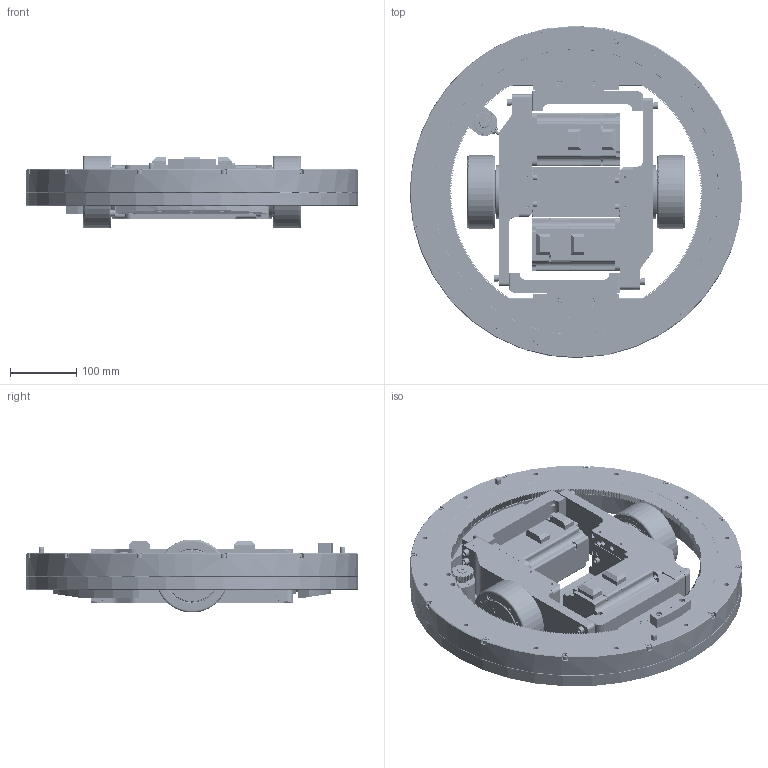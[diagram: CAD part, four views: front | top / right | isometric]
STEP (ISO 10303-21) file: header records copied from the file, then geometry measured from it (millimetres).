
FILE_DESCRIPTION (( 'STEP AP214' ), '1' );
FILE_NAME ('TEC110P751SP30-18-2DDB.STEP', '2025-07-17T00:54:12', ( '' ), ( '' ), 'SwSTEP 2.0', 'SolidWorks 2021', '' );
FILE_SCHEMA (( 'AUTOMOTIVE_DESIGN' ));
Length unit declared in the file: millimetre
Products named in the file (1): TEC110P751SP30-18-2DDB
Bounding box: 500 x 500 x 109.86 mm (x, y, z)
Surface area: 1415971.3 mm2 (no closed solid volume)
Topology: 0 solids, 197 shells, 8362 faces, 21787 edges, 14061 vertices
Faces by surface type: cylinder 3247, plane 2294, bspline 1043, cone 748, torus 518, sphere 512
Entity records: 469156 total; most frequent: CARTESIAN_POINT 212767, ORIENTED_EDGE 43296, EDGE_CURVE 21650, B_SPLINE_CURVE_WITH_KNOTS 19805, DIRECTION 17252, VERTEX_POINT 14061, EDGE_LOOP 9164, UNCERTAINTY_MEASURE_WITH_UNIT 8560
